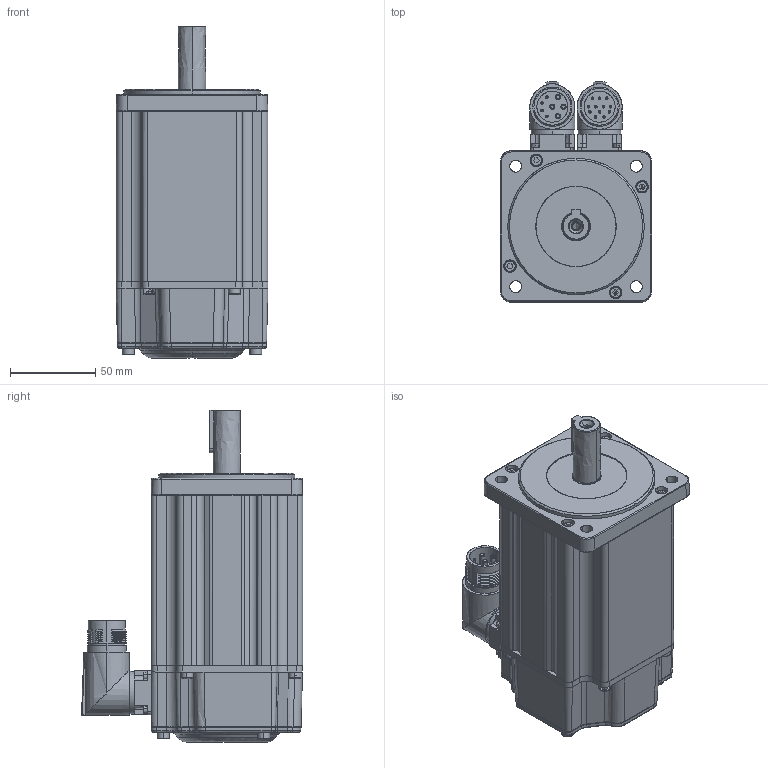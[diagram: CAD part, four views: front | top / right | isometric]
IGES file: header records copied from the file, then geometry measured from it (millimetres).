
Start section: SolidWorks IGES file using analytic representation for surfaces
Global section: file name: C:\Users\BS-Eugene\Desktop\BSM-03-3000-L-100.IGS; native system: SolidWorks 2019; preprocessor: SolidWorks 2019; author: BS-Eugene; date: 260918.135957; units: millimetre
Bounding box: 89.15 x 129.75 x 194.77 mm (x, y, z)
Surface area: 93042.1 mm2 (no closed solid volume)
Topology: 0 solids, 0 shells, 890 faces, 7692 edges, 7725 vertices
Faces by surface type: bspline 497, revolution 393
